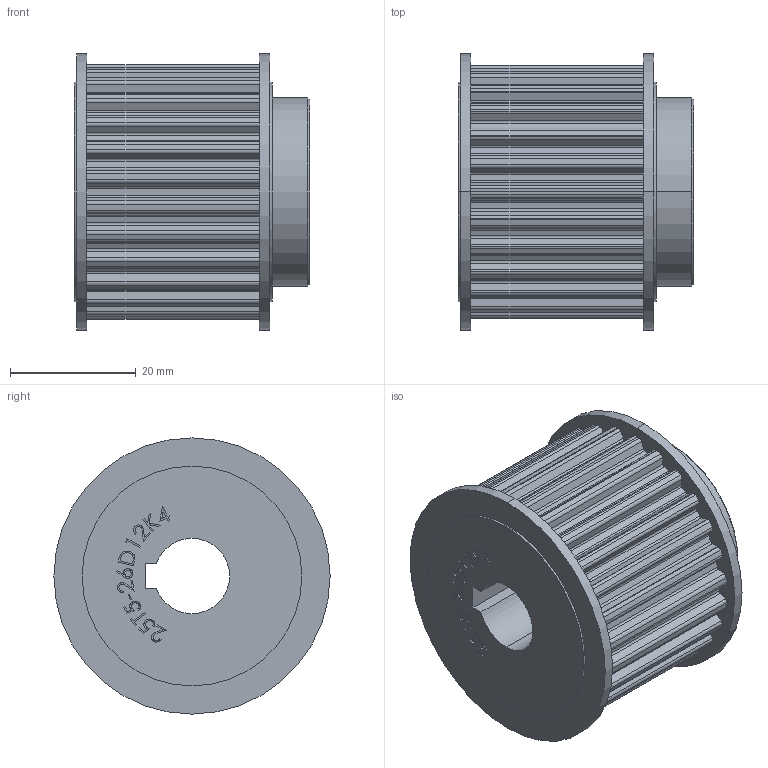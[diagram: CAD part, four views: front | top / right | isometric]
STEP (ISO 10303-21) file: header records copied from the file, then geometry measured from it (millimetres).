
FILE_DESCRIPTION (( 'STEP AP214' ), '1' );
FILE_NAME ('3.2012 Hammashihnapyörä 25T5-26D12K4.STEP', '2026-02-06T13:33:21', ( '' ), ( '' ), 'SwSTEP 2.0', 'SolidWorks 2025', '' );
FILE_SCHEMA (( 'AUTOMOTIVE_DESIGN' ));
Length unit declared in the file: millimetre
Products named in the file (1): 3.2012 Hammashihnapyörä 25T5-26D12K4
Bounding box: 37.5 x 44 x 44 mm (x, y, z)
Volume: 37952.9 mm3; surface area: 11117.8 mm2
Topology: 1 solids, 1 shells, 412 faces, 1168 edges, 776 vertices
Faces by surface type: plane 190, cylinder 168, bspline 50, cone 4
Entity records: 16359 total; most frequent: CARTESIAN_POINT 5655, ORIENTED_EDGE 2336, DIRECTION 2122, EDGE_CURVE 1168, VERTEX_POINT 776, LINE 716, VECTOR 716, AXIS2_PLACEMENT_3D 703
